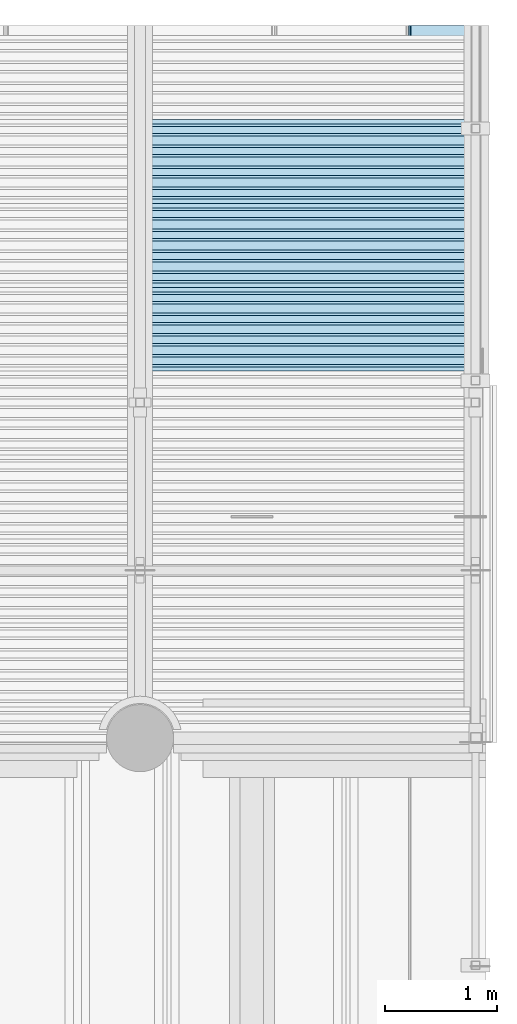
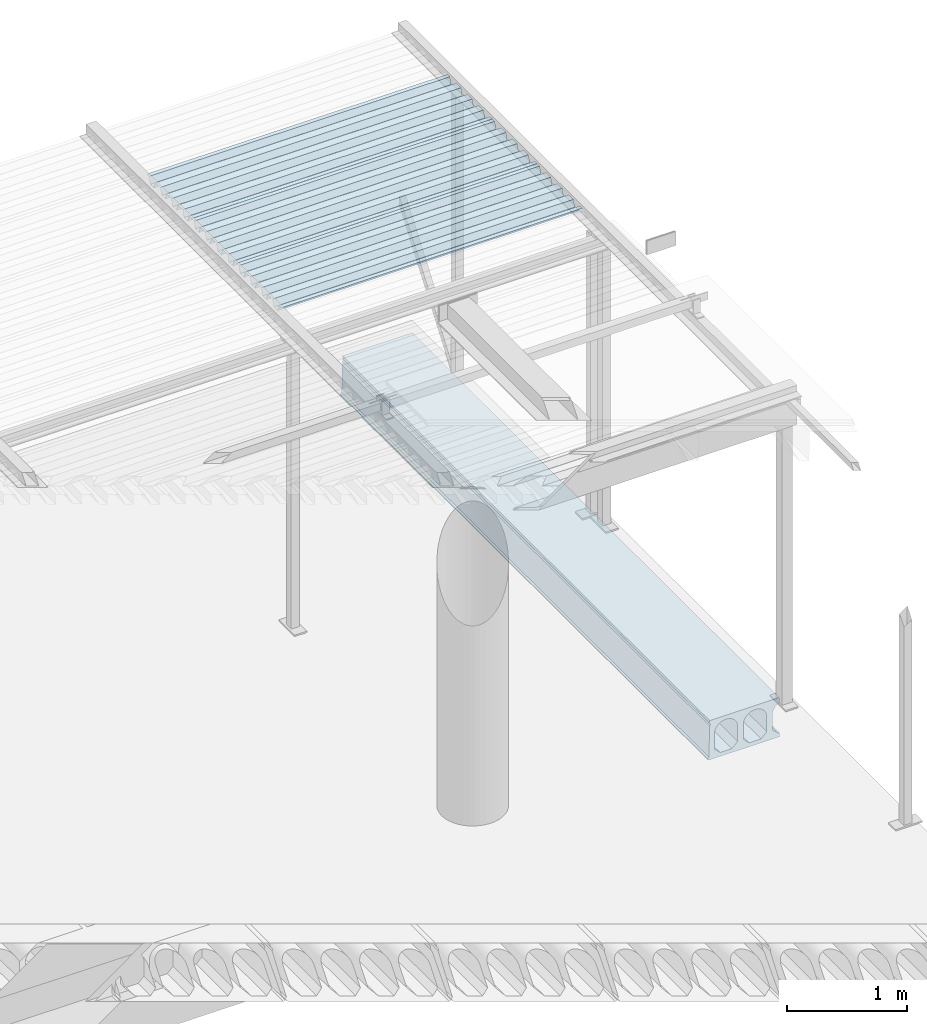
# One storey, part 97 of 98: 4 slabs.
"""IFC2X3 building model written with IfcOpenShell, lengths in millimetres."""

from ifc_helpers import new_model, entity, si_unit, converted_unit, derived_unit, direction, frame, origin_with_axes, place, context, subcontext, project, spatial, faceted_brep, material, type_object, element, save


model = new_model("IFC2X3")

# Units and contexts
model_context = context("Model", 3, precision=0.01, world=frame((0.0, 4.29681676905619e-09, 0.0)), true_north=direction((4.01073788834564e-13, 1.0)))
plan_context = context("Plan", 3, precision=0.01, world=frame((0.0, 4.29681676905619e-09, 0.0)), true_north=direction((4.01073788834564e-13, 1.0)))
body_context = subcontext(model_context, "Body", "Model", "MODEL_VIEW")
ifc_project = project(units=[converted_unit("PLANEANGLEUNIT", "DEGREE", entity("IfcPositiveLengthMeasure", 0.0174532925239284), si_unit("PLANEANGLEUNIT", "RADIAN"), dimensions=[0, 0, 0, 0, 0, 0, 0]), si_unit("AREAUNIT", "SQUARE_METRE"), si_unit("LENGTHUNIT", "METRE", prefix="MILLI"), si_unit("MASSUNIT", "GRAM", prefix="KILO"), si_unit("POWERUNIT", "WATT"), si_unit("PRESSUREUNIT", "PASCAL"), si_unit("FORCEUNIT", "NEWTON", prefix="KILO"), si_unit("ELECTRICCURRENTUNIT", "AMPERE"), si_unit("THERMODYNAMICTEMPERATUREUNIT", "DEGREE_CELSIUS"), si_unit("TIMEUNIT", "SECOND"), si_unit("VOLUMEUNIT", "CUBIC_METRE"), derived_unit("LINEARVELOCITYUNIT", [(si_unit("LENGTHUNIT", "METRE"), 1), (si_unit("TIMEUNIT", "SECOND"), -1)]), derived_unit("VOLUMETRICFLOWRATEUNIT", [(si_unit("VOLUMEUNIT", "CUBIC_METRE"), 1), (si_unit("TIMEUNIT", "SECOND"), -1)]), derived_unit("THERMALTRANSMITTANCEUNIT", [(si_unit("POWERUNIT", "WATT"), 1), (si_unit("THERMODYNAMICTEMPERATUREUNIT", "KELVIN"), -1), (si_unit("AREAUNIT", "SQUARE_METRE"), -1)])], contexts=[model_context, plan_context])

# Site, building, storey
site_placement = place(None, frame((0.0, -4.29681676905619e-09, 0.0), z_axis=(0.0, 0.0, 1.0), x_axis=(1.0, 0.0, 0.0)))
site = spatial("IfcSite", under=ifc_project, at=site_placement, Name="Gardermoen", CompositionType="ELEMENT")
building_placement = place(site_placement, frame((0.0, 4.29681676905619e-09, 0.0), z_axis=(0.0, 0.0, 1.0), x_axis=(1.0, 0.0, 0.0)))
building = spatial("IfcBuilding", under=site, at=building_placement, Name="TS", CompositionType="ELEMENT")
storey_placement = place(building_placement, origin_with_axes())
storey = spatial("IfcBuildingStorey", under=building, at=storey_placement, Name="D", CompositionType="ELEMENT", Elevation=0.0)

# Slabs
slab_type_1 = type_object("IfcSlabType", Name="HD400", PredefinedType="NOTDEFINED")
slab_1_placement = place(storey_placement, frame((531999.999766, 414739.995625, 203600.0), z_axis=(0.0, 0.0, 1.0), x_axis=(0.0, 1.0, 0.0)))
element("IfcSlab", 1, at=slab_1_placement, inside=storey, type_object=slab_type_1, Name="HULLDEKKE", ObjectType="HD400", PredefinedType="FLOOR", context=body_context, shape_type="Brep", body=[
    faceted_brep([(6130.19582840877, 600.0, -190.0), (6130.19582840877, 600.0, -180.0), (0.0, 600.0, -180.0), (0.0, 600.0, -190.0), (6130.19582840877, 585.0, -170.0), (0.0, 585.0, -170.0), (6130.19582840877, 577.5, 145.0), (0.0, 577.5, 145.0), (6130.19582840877, 570.0, 160.0), (0.0, 570.0, 160.0), (6130.19582840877, 577.5, 175.0), (0.0, 577.5, 175.0), (6130.19582840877, 577.5, 200.0), (0.0, 577.5, 200.0), (6130.19582840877, -95.0002340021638, 200.0), (0.0, -95.0002340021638, 200.0), (0.0, -95.0002340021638, -200.0), (6130.19582840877, -95.0002340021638, -200.0), (6130.19582840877, 583.380004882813, -200.0), (0.0, 583.380004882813, -200.0), (6130.19582840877, -82.5, -160.0), (6130.19582840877, -95.0002340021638, -160.0), (0.0, -95.0002340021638, -160.0), (0.0, -82.5, -160.0), (0.0, -95.0002340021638, 150.599015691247), (6130.19582840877, -95.0002340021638, 150.599015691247), (6130.19582840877, -94.8092647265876, 150.524499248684), (0.0, -94.8092647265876, 150.524499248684), (6130.19582840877, -86.4559182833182, 146.440797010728), (0.0, -86.4559182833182, 146.440797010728), (6130.19582840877, -78.4683322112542, 141.681228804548), (0.0, -78.4683322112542, 141.681228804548), (6130.19582840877, -70.9010698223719, 136.278307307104), (0.0, -70.9010698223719, 136.278307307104), (6130.19582840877, -63.8058231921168, 130.268939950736), (0.0, -63.8058231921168, 130.268939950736), (6130.19582840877, -57.2310600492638, 123.694176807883), (0.0, -57.2310600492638, 123.694176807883), (6130.19582840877, -51.2216926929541, 116.598930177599), (0.0, -51.2216926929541, 116.598930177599), (6130.19582840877, -45.8187711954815, 109.031667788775), (0.0, -45.8187711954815, 109.031667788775), (6130.19582840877, -41.0592029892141, 101.044081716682), (0.0, -41.0592029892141, 101.044081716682), (6130.19582840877, -36.9755007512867, 92.6907352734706), (0.0, -36.9755007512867, 92.6907352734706), (6130.19582840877, -33.5955603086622, 84.028690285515), (0.0, -33.5955603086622, 84.028690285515), (6130.19582840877, -30.942470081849, 75.1171173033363), (0.0, -30.942470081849, 75.1171173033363), (6130.19582840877, -29.0343533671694, 66.0168914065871), (0.0, -29.0343533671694, 66.0168914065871), (6130.19582840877, -27.8842445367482, 56.7901763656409), (0.0, -27.8842445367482, 56.7901763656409), (6130.19582840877, -27.5, 47.5), (0.0, -27.5, 47.5), (6130.19582840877, -27.5, -105.0), (0.0, -27.5, -105.0), (6130.19582840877, 197.499999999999, -160.0), (6130.19582840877, 82.4999999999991, -160.0), (0.0, 82.5, -160.0), (0.0, 197.5, -160.0), (6130.19582840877, 27.5, -105.0), (0.0, 27.5, -105.0), (6130.19582840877, 27.5000000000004, 47.5000000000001), (0.0, 27.5, 47.5), (6130.19582840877, 27.8842445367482, 56.7901763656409), (0.0, 27.8842445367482, 56.7901763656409), (6130.19582840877, 29.0343533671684, 66.0168914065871), (0.0, 29.0343533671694, 66.0168914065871), (6130.19582840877, 30.942470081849, 75.1171173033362), (0.0, 30.942470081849, 75.1171173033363), (6130.19582840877, 33.5955603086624, 84.0286902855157), (0.0, 33.5955603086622, 84.028690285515), (6130.19582840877, 36.9755007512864, 92.69073527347), (0.0, 36.9755007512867, 92.6907352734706), (6130.19582840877, 41.0592029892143, 101.044081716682), (0.0, 41.0592029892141, 101.044081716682), (6130.19582840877, 45.8187711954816, 109.031667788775), (0.0, 45.8187711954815, 109.031667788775), (6130.19582840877, 51.2216926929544, 116.598930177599), (0.0, 51.2216926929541, 116.598930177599), (6130.19582840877, 57.2310600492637, 123.694176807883), (0.0, 57.2310600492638, 123.694176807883), (6130.19582840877, 63.8058231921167, 130.268939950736), (0.0, 63.8058231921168, 130.268939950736), (6130.19582840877, 70.9010698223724, 136.278307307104), (0.0, 70.9010698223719, 136.278307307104), (6130.19582840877, 78.4683322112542, 141.681228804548), (0.0, 78.4683322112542, 141.681228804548), (6130.19582840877, 86.4559182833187, 146.440797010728), (0.0, 86.4559182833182, 146.440797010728), (6130.19582840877, 94.8092647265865, 150.524499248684), (0.0, 94.8092647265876, 150.524499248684), (6130.19582840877, 103.471309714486, 153.904439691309), (0.0, 103.471309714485, 153.904439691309), (6130.19582840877, 112.382882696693, 156.55752991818), (0.0, 112.382882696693, 156.55752991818), (6130.19582840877, 121.483108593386, 158.465646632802), (0.0, 121.483108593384, 158.465646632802), (6130.19582840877, 130.70982363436, 159.615755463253), (0.0, 130.709823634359, 159.615755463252), (6130.19582840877, 140.0, 160.0), (0.0, 140.0, 160.0), (6130.19582840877, 149.290176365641, 159.615755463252), (0.0, 149.290176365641, 159.615755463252), (6130.19582840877, 158.516891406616, 158.465646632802), (0.0, 158.516891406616, 158.465646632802), (6130.19582840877, 167.617117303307, 156.55752991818), (0.0, 167.617117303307, 156.55752991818), (6130.19582840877, 176.528690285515, 153.904439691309), (0.0, 176.528690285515, 153.904439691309), (6130.19582840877, 185.190735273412, 150.524499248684), (0.0, 185.190735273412, 150.524499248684), (6130.19582840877, 193.544081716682, 146.440797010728), (0.0, 193.544081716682, 146.440797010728), (6130.19582840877, 201.531667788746, 141.681228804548), (0.0, 201.531667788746, 141.681228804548), (6130.19582840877, 209.098930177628, 136.278307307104), (0.0, 209.098930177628, 136.278307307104), (6130.19582840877, 216.194176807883, 130.268939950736), (0.0, 216.194176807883, 130.268939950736), (6130.19582840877, 222.768939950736, 123.694176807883), (0.0, 222.768939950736, 123.694176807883), (6130.19582840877, 228.778307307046, 116.598930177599), (0.0, 228.778307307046, 116.598930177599), (6130.19582840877, 234.181228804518, 109.031667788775), (0.0, 234.181228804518, 109.031667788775), (6130.19582840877, 238.940797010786, 101.044081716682), (0.0, 238.940797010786, 101.044081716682), (6130.19582840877, 243.024499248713, 92.6907352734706), (0.0, 243.024499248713, 92.6907352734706), (6130.19582840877, 246.404439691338, 84.0286902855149), (0.0, 246.404439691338, 84.028690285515), (6130.19582840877, 249.05752991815, 75.1171173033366), (0.0, 249.057529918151, 75.1171173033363), (6130.19582840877, 250.96564663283, 66.0168914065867), (0.0, 250.965646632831, 66.0168914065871), (6130.19582840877, 252.115755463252, 56.7901763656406), (0.0, 252.115755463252, 56.7901763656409), (6130.19582840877, 252.5, 47.5000000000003), (0.0, 252.5, 47.5), (6130.19582840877, 252.5, -105.0), (0.0, 252.5, -105.0), (6130.19582840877, 477.5, -160.0), (6130.19582840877, 362.5, -160.0), (0.0, 362.5, -160.0), (0.0, 477.5, -160.0), (6130.19582840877, 307.5, -105.0), (0.0, 307.5, -105.0), (6130.19582840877, 307.500000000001, 47.5000000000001), (0.0, 307.5, 47.5), (6130.19582840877, 307.884244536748, 56.7901763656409), (0.0, 307.884244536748, 56.7901763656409), (6130.19582840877, 309.034353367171, 66.0168914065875), (0.0, 309.034353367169, 66.0168914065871), (6130.19582840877, 310.942470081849, 75.1171173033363), (0.0, 310.942470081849, 75.1171173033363), (6130.19582840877, 313.595560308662, 84.028690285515), (0.0, 313.595560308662, 84.028690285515), (6130.19582840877, 316.975500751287, 92.6907352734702), (0.0, 316.975500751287, 92.6907352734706), (6130.19582840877, 321.059202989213, 101.044081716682), (0.0, 321.059202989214, 101.044081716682), (6130.19582840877, 325.818771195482, 109.031667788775), (0.0, 325.818771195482, 109.031667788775), (6130.19582840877, 331.221692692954, 116.598930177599), (0.0, 331.221692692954, 116.598930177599), (6130.19582840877, 337.231060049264, 123.694176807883), (0.0, 337.231060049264, 123.694176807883), (6130.19582840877, 343.805823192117, 130.268939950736), (0.0, 343.805823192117, 130.268939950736), (6130.19582840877, 350.901069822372, 136.278307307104), (0.0, 350.901069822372, 136.278307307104), (6130.19582840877, 358.468332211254, 141.681228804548), (0.0, 358.468332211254, 141.681228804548), (6130.19582840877, 366.455918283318, 146.440797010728), (0.0, 366.455918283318, 146.440797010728), (6130.19582840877, 374.809264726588, 150.524499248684), (0.0, 374.809264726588, 150.524499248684), (6130.19582840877, 383.471309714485, 153.904439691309), (0.0, 383.471309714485, 153.904439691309), (6130.19582840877, 392.382882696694, 156.55752991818), (0.0, 392.382882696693, 156.55752991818), (6130.19582840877, 401.483108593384, 158.465646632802), (0.0, 401.483108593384, 158.465646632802), (6130.19582840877, 410.70982363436, 159.615755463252), (0.0, 410.709823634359, 159.615755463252), (6130.19582840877, 420.0, 160.0), (0.0, 420.0, 160.0), (6130.19582840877, 429.290176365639, 159.615755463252), (0.0, 429.290176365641, 159.615755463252), (6130.19582840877, 438.516891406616, 158.465646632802), (0.0, 438.516891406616, 158.465646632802), (6130.19582840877, 447.617117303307, 156.55752991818), (0.0, 447.617117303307, 156.55752991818), (6130.19582840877, 456.528690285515, 153.904439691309), (0.0, 456.528690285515, 153.904439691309), (6130.19582840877, 465.190735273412, 150.524499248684), (0.0, 465.190735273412, 150.524499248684), (6130.19582840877, 473.544081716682, 146.440797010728), (0.0, 473.544081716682, 146.440797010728), (6130.19582840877, 481.531667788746, 141.681228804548), (0.0, 481.531667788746, 141.681228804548), (6130.19582840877, 489.098930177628, 136.278307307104), (0.0, 489.098930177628, 136.278307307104), (6130.19582840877, 496.194176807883, 130.268939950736), (0.0, 496.194176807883, 130.268939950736), (6130.19582840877, 502.768939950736, 123.694176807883), (0.0, 502.768939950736, 123.694176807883), (6130.19582840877, 508.778307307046, 116.598930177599), (0.0, 508.778307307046, 116.598930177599), (6130.19582840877, 514.181228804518, 109.031667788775), (0.0, 514.181228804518, 109.031667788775), (6130.19582840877, 518.940797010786, 101.044081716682), (0.0, 518.940797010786, 101.044081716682), (6130.19582840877, 523.024499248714, 92.6907352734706), (0.0, 523.024499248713, 92.6907352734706), (6130.19582840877, 526.404439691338, 84.028690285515), (0.0, 526.404439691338, 84.028690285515), (6130.19582840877, 529.057529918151, 75.1171173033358), (0.0, 529.057529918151, 75.1171173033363), (6130.19582840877, 530.965646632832, 66.0168914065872), (0.0, 530.965646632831, 66.0168914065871), (6130.19582840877, 532.115755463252, 56.7901763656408), (0.0, 532.115755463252, 56.7901763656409), (6130.19582840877, 532.500000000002, 47.5000000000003), (0.0, 532.5, 47.5), (6130.19582840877, 532.500000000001, -105.0), (0.0, 532.5, -105.0)], [[[0, 1, 2, 3]], [[1, 4, 5, 2]], [[4, 6, 7, 5]], [[6, 8, 9, 7]], [[8, 10, 11, 9]], [[10, 12, 13, 11]], [[12, 14, 15, 13]], [[16, 17, 18, 19]], [[18, 0, 3, 19]], [[20, 21, 22, 23]], [[24, 25, 26, 27]], [[26, 28, 29, 27]], [[28, 30, 31, 29]], [[30, 32, 33, 31]], [[32, 34, 35, 33]], [[34, 36, 37, 35]], [[36, 38, 39, 37]], [[38, 40, 41, 39]], [[40, 42, 43, 41]], [[42, 44, 45, 43]], [[44, 46, 47, 45]], [[46, 48, 49, 47]], [[48, 50, 51, 49]], [[50, 52, 53, 51]], [[52, 54, 55, 53]], [[54, 56, 57, 55]], [[56, 20, 23, 57]], [[58, 59, 60, 61]], [[59, 62, 63, 60]], [[62, 64, 65, 63]], [[64, 66, 67, 65]], [[66, 68, 69, 67]], [[68, 70, 71, 69]], [[70, 72, 73, 71]], [[72, 74, 75, 73]], [[74, 76, 77, 75]], [[76, 78, 79, 77]], [[78, 80, 81, 79]], [[80, 82, 83, 81]], [[82, 84, 85, 83]], [[84, 86, 87, 85]], [[86, 88, 89, 87]], [[88, 90, 91, 89]], [[90, 92, 93, 91]], [[92, 94, 95, 93]], [[94, 96, 97, 95]], [[96, 98, 99, 97]], [[98, 100, 101, 99]], [[100, 102, 103, 101]], [[102, 104, 105, 103]], [[104, 106, 107, 105]], [[106, 108, 109, 107]], [[108, 110, 111, 109]], [[110, 112, 113, 111]], [[112, 114, 115, 113]], [[114, 116, 117, 115]], [[116, 118, 119, 117]], [[118, 120, 121, 119]], [[120, 122, 123, 121]], [[122, 124, 125, 123]], [[124, 126, 127, 125]], [[126, 128, 129, 127]], [[128, 130, 131, 129]], [[130, 132, 133, 131]], [[132, 134, 135, 133]], [[134, 136, 137, 135]], [[136, 138, 139, 137]], [[138, 140, 141, 139]], [[140, 142, 143, 141]], [[142, 58, 61, 143]], [[144, 145, 146, 147]], [[145, 148, 149, 146]], [[148, 150, 151, 149]], [[150, 152, 153, 151]], [[152, 154, 155, 153]], [[154, 156, 157, 155]], [[156, 158, 159, 157]], [[158, 160, 161, 159]], [[160, 162, 163, 161]], [[162, 164, 165, 163]], [[164, 166, 167, 165]], [[166, 168, 169, 167]], [[168, 170, 171, 169]], [[170, 172, 173, 171]], [[172, 174, 175, 173]], [[174, 176, 177, 175]], [[176, 178, 179, 177]], [[178, 180, 181, 179]], [[180, 182, 183, 181]], [[182, 184, 185, 183]], [[184, 186, 187, 185]], [[186, 188, 189, 187]], [[188, 190, 191, 189]], [[190, 192, 193, 191]], [[192, 194, 195, 193]], [[194, 196, 197, 195]], [[196, 198, 199, 197]], [[198, 200, 201, 199]], [[200, 202, 203, 201]], [[202, 204, 205, 203]], [[204, 206, 207, 205]], [[206, 208, 209, 207]], [[208, 210, 211, 209]], [[210, 212, 213, 211]], [[212, 214, 215, 213]], [[214, 216, 217, 215]], [[216, 218, 219, 217]], [[218, 220, 221, 219]], [[220, 222, 223, 221]], [[222, 224, 225, 223]], [[224, 226, 227, 225]], [[226, 228, 229, 227]], [[228, 144, 147, 229]], [[15, 24, 27, 29, 31, 33, 35, 37, 39, 41, 43, 45, 47, 49, 51, 53, 55, 57, 23, 22, 16, 19, 3, 2, 5, 7, 9, 11, 13], [147, 146, 149, 151, 153, 155, 157, 159, 161, 163, 165, 167, 169, 171, 173, 175, 177, 179, 181, 183, 185, 187, 189, 191, 193, 195, 197, 199, 201, 203, 205, 207, 209, 211, 213, 215, 217, 219, 221, 223, 225, 227, 229], [61, 60, 63, 65, 67, 69, 71, 73, 75, 77, 79, 81, 83, 85, 87, 89, 91, 93, 95, 97, 99, 101, 103, 105, 107, 109, 111, 113, 115, 117, 119, 121, 123, 125, 127, 129, 131, 133, 135, 137, 139, 141, 143]], [[25, 24, 15, 14]], [[17, 16, 22, 21]], [[14, 12, 10, 8, 6, 4, 1, 0, 18, 17, 21, 20, 56, 54, 52, 50, 48, 46, 44, 42, 40, 38, 36, 34, 32, 30, 28, 26, 25]]], orient=[[False], [False], [False], [False], [False], [False], [False], [False], [False], [False], [False], [False], [False], [False], [False], [False], [False], [False], [False], [False], [False], [False], [False], [False], [False], [False], [False], [False], [False], [False], [False], [False], [False], [False], [False], [False], [False], [False], [False], [False], [False], [False], [False], [False], [False], [False], [False], [False], [False], [False], [False], [False], [False], [False], [False], [False], [False], [False], [False], [False], [False], [False], [False], [False], [False], [False], [False], [False], [False], [False], [False], [False], [False], [False], [False], [False], [False], [False], [False], [False], [False], [False], [False], [False], [False], [False], [False], [False], [False], [False], [False], [False], [False], [False], [False], [False], [False], [False], [False], [False], [False], [False], [False], [False], [False], [False], [False], [False], [False], [False], [False], [False], [False], [False, False, False], [False], [False], [False]]),
])
ifc_material = material(Name="STEEL/S355")
slab_type_2 = type_object("IfcSlabType", Name="PLANJA70", PredefinedType="NOTDEFINED")
slab_2_placement = place(storey_placement, frame((531950.000000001, 418154.996695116, 206958.849718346), z_axis=(0.0, 0.0, 1.0), x_axis=(-0.999999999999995, -9.99999902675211e-08, 0.0)))
element("IfcSlab", 2, at=slab_2_placement, inside=storey, type_object=slab_type_2, material=ifc_material, Name="STÅLTAK", ObjectType="PLANJA70", PredefinedType="FLOOR", context=body_context, shape_type="Brep", body=[
    faceted_brep([(0.0, 375.0, 34.1500015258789), (0.0, 335.299987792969, 34.1500015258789), (2900.00079747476, 335.299987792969, 34.1500015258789), (2900.00079747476, 375.0, 34.1500015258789), (0.0, 313.010681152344, -32.1500015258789), (2900.00079747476, 313.010681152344, -32.1500015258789), (0.0, 249.489303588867, -32.1500015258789), (2900.00079747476, 249.489303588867, -32.1500015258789), (0.0, 227.199996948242, 34.1500015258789), (2900.00079747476, 227.199996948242, 34.1500015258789), (0.0, 147.800003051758, 34.1500015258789), (2900.00079747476, 147.800003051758, 34.1500015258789), (0.0, 125.280120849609, -33.1500015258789), (2900.00079747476, 125.280120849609, -33.1500015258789), (0.0, 62.2198791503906, -33.1500015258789), (2900.00079747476, 62.2198791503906, -33.1500015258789), (0.0, 39.7000007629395, 34.1500015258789), (2900.00079747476, 39.7000007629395, 34.1500015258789), (0.0, -39.7000007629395, 34.1500015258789), (2900.00079747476, -39.7000007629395, 34.1500015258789), (0.0, -62.2198791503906, -33.1500015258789), (2900.00079747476, -62.2198791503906, -33.1500015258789), (0.0, -125.280120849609, -33.1500015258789), (2900.00079747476, -125.280120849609, -33.1500015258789), (0.0, -147.800003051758, 34.1500015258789), (2900.00079747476, -147.800003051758, 34.1500015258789), (0.0, -227.199996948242, 34.1500015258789), (2900.00079747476, -227.199996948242, 34.1500015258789), (0.0, -249.719879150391, -33.1500015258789), (2900.00079747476, -249.719879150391, -33.1500015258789), (0.0, -312.781188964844, -33.1500015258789), (2900.00079747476, -312.781188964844, -33.1500015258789), (0.0, -335.070495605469, 33.1500015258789), (2900.00079747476, -335.070495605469, 33.1500015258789), (0.0, -375.0, 33.1500015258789), (2900.00079747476, -375.0, 33.1500015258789), (0.0, -375.0, 32.1500015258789), (2900.00079747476, -375.0, 32.1500015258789), (0.0, -335.789306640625, 32.1500015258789), (2900.00079747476, -335.789306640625, 32.1500015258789), (0.0, -313.5, -34.1500015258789), (2900.00079747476, -313.5, -34.1500015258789), (0.0, -249.0, -34.1500015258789), (2900.00079747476, -249.0, -34.1500015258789), (0.0, -226.480117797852, 33.1500015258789), (2900.00079747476, -226.480117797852, 33.1500015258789), (0.0, -148.519882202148, 33.1500015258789), (2900.00079747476, -148.519882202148, 33.1500015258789), (0.0, -126.0, -34.1500015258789), (2900.00079747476, -126.0, -34.1500015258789), (0.0, -61.5, -34.1500015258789), (2900.00079747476, -61.5, -34.1500015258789), (0.0, -38.9801177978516, 33.1500015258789), (2900.00079747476, -38.9801177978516, 33.1500015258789), (0.0, 38.9801177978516, 33.1500015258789), (2900.00079747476, 38.9801177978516, 33.1500015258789), (0.0, 61.5, -34.1500015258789), (2900.00079747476, 61.5, -34.1500015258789), (0.0, 126.0, -34.1500015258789), (2900.00079747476, 126.0, -34.1500015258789), (0.0, 148.519882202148, 33.1500015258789), (2900.00079747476, 148.519882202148, 33.1500015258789), (0.0, 226.481185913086, 33.1500015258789), (2900.00079747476, 226.481185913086, 33.1500015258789), (0.0, 248.770492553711, -33.1500015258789), (2900.00079747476, 248.770492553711, -33.1500015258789), (0.0, 313.7294921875, -33.1500015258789), (2900.00079747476, 313.7294921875, -33.1500015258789), (0.0, 336.018798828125, 33.1500015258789), (2900.00079747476, 336.018798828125, 33.1500015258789), (0.0, 375.0, 33.1500015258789), (2900.00079747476, 375.0, 33.1500015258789)], [[[0, 1, 2, 3]], [[1, 4, 5, 2]], [[4, 6, 7, 5]], [[6, 8, 9, 7]], [[8, 10, 11, 9]], [[10, 12, 13, 11]], [[12, 14, 15, 13]], [[14, 16, 17, 15]], [[16, 18, 19, 17]], [[18, 20, 21, 19]], [[22, 23, 21, 20]], [[22, 24, 25, 23]], [[24, 26, 27, 25]], [[26, 28, 29, 27]], [[28, 30, 31, 29]], [[30, 32, 33, 31]], [[32, 34, 35, 33]], [[34, 36, 37, 35]], [[36, 38, 39, 37]], [[38, 40, 41, 39]], [[40, 42, 43, 41]], [[42, 44, 45, 43]], [[44, 46, 47, 45]], [[46, 48, 49, 47]], [[48, 50, 51, 49]], [[50, 52, 53, 51]], [[52, 54, 55, 53]], [[54, 56, 57, 55]], [[56, 58, 59, 57]], [[58, 60, 61, 59]], [[60, 62, 63, 61]], [[62, 64, 65, 63]], [[64, 66, 67, 65]], [[66, 68, 69, 67]], [[68, 70, 71, 69]], [[70, 0, 3, 71]], [[5, 7, 9, 11, 13, 15, 17, 19, 21, 23, 25, 27, 29, 31, 33, 35, 37, 39, 41, 43, 45, 47, 49, 51, 53, 55, 57, 59, 61, 63, 65, 67, 69, 71, 3, 2]], [[70, 68, 66, 64, 62, 60, 58, 56, 54, 52, 50, 48, 46, 44, 42, 40, 38, 36, 34, 32, 30, 28, 26, 24, 22, 20, 18, 16, 14, 12, 10, 8, 6, 4, 1, 0]]]),
])
slab_3_placement = place(storey_placement, frame((531950.000000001, 418904.996695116, 206958.849718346), z_axis=(0.0, 0.0, 1.0), x_axis=(-0.999999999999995, -9.99999902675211e-08, 0.0)))
element("IfcSlab", 3, at=slab_3_placement, inside=storey, type_object=slab_type_2, material=ifc_material, Name="STÅLTAK", ObjectType="PLANJA70", PredefinedType="FLOOR", context=body_context, shape_type="Brep", body=[
    faceted_brep([(0.0, 375.0, 34.1500015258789), (0.0, 335.299987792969, 34.1500015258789), (2900.00079747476, 335.299987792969, 34.1500015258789), (2900.00079747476, 375.0, 34.1500015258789), (0.0, 313.010681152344, -32.1500015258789), (2900.00079747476, 313.010681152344, -32.1500015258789), (0.0, 249.489303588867, -32.1500015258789), (2900.00079747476, 249.489303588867, -32.1500015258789), (0.0, 227.199996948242, 34.1500015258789), (2900.00079747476, 227.199996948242, 34.1500015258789), (0.0, 147.800003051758, 34.1500015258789), (2900.00079747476, 147.800003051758, 34.1500015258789), (0.0, 125.280120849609, -33.1500015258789), (2900.00079747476, 125.280120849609, -33.1500015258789), (0.0, 62.2198791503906, -33.1500015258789), (2900.00079747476, 62.2198791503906, -33.1500015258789), (0.0, 39.7000007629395, 34.1500015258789), (2900.00079747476, 39.7000007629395, 34.1500015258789), (0.0, -39.7000007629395, 34.1500015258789), (2900.00079747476, -39.7000007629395, 34.1500015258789), (0.0, -62.2198791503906, -33.1500015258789), (2900.00079747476, -62.2198791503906, -33.1500015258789), (0.0, -125.280120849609, -33.1500015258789), (2900.00079747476, -125.280120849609, -33.1500015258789), (0.0, -147.800003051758, 34.1500015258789), (2900.00079747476, -147.800003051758, 34.1500015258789), (0.0, -227.199996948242, 34.1500015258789), (2900.00079747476, -227.199996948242, 34.1500015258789), (0.0, -249.719879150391, -33.1500015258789), (2900.00079747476, -249.719879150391, -33.1500015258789), (0.0, -312.781188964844, -33.1500015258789), (2900.00079747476, -312.781188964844, -33.1500015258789), (0.0, -335.070495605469, 33.1500015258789), (2900.00079747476, -335.070495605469, 33.1500015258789), (0.0, -375.0, 33.1500015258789), (2900.00079747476, -375.0, 33.1500015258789), (0.0, -375.0, 32.1500015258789), (2900.00079747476, -375.0, 32.1500015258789), (0.0, -335.789306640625, 32.1500015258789), (2900.00079747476, -335.789306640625, 32.1500015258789), (0.0, -313.5, -34.1500015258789), (2900.00079747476, -313.5, -34.1500015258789), (0.0, -249.0, -34.1500015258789), (2900.00079747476, -249.0, -34.1500015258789), (0.0, -226.480117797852, 33.1500015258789), (2900.00079747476, -226.480117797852, 33.1500015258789), (0.0, -148.519882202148, 33.1500015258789), (2900.00079747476, -148.519882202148, 33.1500015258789), (0.0, -126.0, -34.1500015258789), (2900.00079747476, -126.0, -34.1500015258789), (0.0, -61.5, -34.1500015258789), (2900.00079747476, -61.5, -34.1500015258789), (0.0, -38.9801177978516, 33.1500015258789), (2900.00079747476, -38.9801177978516, 33.1500015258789), (0.0, 38.9801177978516, 33.1500015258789), (2900.00079747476, 38.9801177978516, 33.1500015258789), (0.0, 61.5, -34.1500015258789), (2900.00079747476, 61.5, -34.1500015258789), (0.0, 126.0, -34.1500015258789), (2900.00079747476, 126.0, -34.1500015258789), (0.0, 148.519882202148, 33.1500015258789), (2900.00079747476, 148.519882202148, 33.1500015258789), (0.0, 226.481185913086, 33.1500015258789), (2900.00079747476, 226.481185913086, 33.1500015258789), (0.0, 248.770492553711, -33.1500015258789), (2900.00079747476, 248.770492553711, -33.1500015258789), (0.0, 313.7294921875, -33.1500015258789), (2900.00079747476, 313.7294921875, -33.1500015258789), (0.0, 336.018798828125, 33.1500015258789), (2900.00079747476, 336.018798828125, 33.1500015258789), (0.0, 375.0, 33.1500015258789), (2900.00079747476, 375.0, 33.1500015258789)], [[[0, 1, 2, 3]], [[1, 4, 5, 2]], [[4, 6, 7, 5]], [[6, 8, 9, 7]], [[8, 10, 11, 9]], [[10, 12, 13, 11]], [[12, 14, 15, 13]], [[14, 16, 17, 15]], [[16, 18, 19, 17]], [[18, 20, 21, 19]], [[22, 23, 21, 20]], [[22, 24, 25, 23]], [[24, 26, 27, 25]], [[26, 28, 29, 27]], [[28, 30, 31, 29]], [[30, 32, 33, 31]], [[32, 34, 35, 33]], [[34, 36, 37, 35]], [[36, 38, 39, 37]], [[38, 40, 41, 39]], [[40, 42, 43, 41]], [[42, 44, 45, 43]], [[44, 46, 47, 45]], [[46, 48, 49, 47]], [[48, 50, 51, 49]], [[50, 52, 53, 51]], [[52, 54, 55, 53]], [[54, 56, 57, 55]], [[56, 58, 59, 57]], [[58, 60, 61, 59]], [[60, 62, 63, 61]], [[62, 64, 65, 63]], [[64, 66, 67, 65]], [[66, 68, 69, 67]], [[68, 70, 71, 69]], [[70, 0, 3, 71]], [[5, 7, 9, 11, 13, 15, 17, 19, 21, 23, 25, 27, 29, 31, 33, 35, 37, 39, 41, 43, 45, 47, 49, 51, 53, 55, 57, 59, 61, 63, 65, 67, 69, 71, 3, 2]], [[70, 68, 66, 64, 62, 60, 58, 56, 54, 52, 50, 48, 46, 44, 42, 40, 38, 36, 34, 32, 30, 28, 26, 24, 22, 20, 18, 16, 14, 12, 10, 8, 6, 4, 1, 0]]]),
])
slab_4_placement = place(storey_placement, frame((531950.000000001, 419654.996695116, 206958.849718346), z_axis=(0.0, 0.0, 1.0), x_axis=(-0.999999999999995, -9.99999902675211e-08, 0.0)))
element("IfcSlab", 4, at=slab_4_placement, inside=storey, type_object=slab_type_2, material=ifc_material, Name="STÅLTAK", ObjectType="PLANJA70", PredefinedType="FLOOR", context=body_context, shape_type="Brep", body=[
    faceted_brep([(0.0, 375.0, 34.1500015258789), (0.0, 335.299987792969, 34.1500015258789), (2900.00079747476, 335.299987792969, 34.1500015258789), (2900.00079747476, 375.0, 34.1500015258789), (0.0, 313.010681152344, -32.1500015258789), (2900.00079747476, 313.010681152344, -32.1500015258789), (0.0, 249.489303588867, -32.1500015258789), (2900.00079747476, 249.489303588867, -32.1500015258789), (0.0, 227.199996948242, 34.1500015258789), (2900.00079747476, 227.199996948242, 34.1500015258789), (0.0, 147.800003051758, 34.1500015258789), (2900.00079747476, 147.800003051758, 34.1500015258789), (0.0, 125.280120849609, -33.1500015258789), (2900.00079747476, 125.280120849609, -33.1500015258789), (0.0, 62.2198791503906, -33.1500015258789), (2900.00079747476, 62.2198791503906, -33.1500015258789), (0.0, 39.7000007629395, 34.1500015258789), (2900.00079747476, 39.7000007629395, 34.1500015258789), (0.0, -39.7000007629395, 34.1500015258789), (2900.00079747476, -39.7000007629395, 34.1500015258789), (0.0, -62.2198791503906, -33.1500015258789), (2900.00079747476, -62.2198791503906, -33.1500015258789), (0.0, -125.280120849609, -33.1500015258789), (2900.00079747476, -125.280120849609, -33.1500015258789), (0.0, -147.800003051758, 34.1500015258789), (2900.00079747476, -147.800003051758, 34.1500015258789), (0.0, -227.199996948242, 34.1500015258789), (2900.00079747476, -227.199996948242, 34.1500015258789), (0.0, -249.719879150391, -33.1500015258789), (2900.00079747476, -249.719879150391, -33.1500015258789), (0.0, -312.781188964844, -33.1500015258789), (2900.00079747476, -312.781188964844, -33.1500015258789), (0.0, -335.070495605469, 33.1500015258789), (2900.00079747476, -335.070495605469, 33.1500015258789), (0.0, -375.0, 33.1500015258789), (2900.00079747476, -375.0, 33.1500015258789), (0.0, -375.0, 32.1500015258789), (2900.00079747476, -375.0, 32.1500015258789), (0.0, -335.789306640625, 32.1500015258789), (2900.00079747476, -335.789306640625, 32.1500015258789), (0.0, -313.5, -34.1500015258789), (2900.00079747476, -313.5, -34.1500015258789), (0.0, -249.0, -34.1500015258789), (2900.00079747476, -249.0, -34.1500015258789), (0.0, -226.480117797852, 33.1500015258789), (2900.00079747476, -226.480117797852, 33.1500015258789), (0.0, -148.519882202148, 33.1500015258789), (2900.00079747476, -148.519882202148, 33.1500015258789), (0.0, -126.0, -34.1500015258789), (2900.00079747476, -126.0, -34.1500015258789), (0.0, -61.5, -34.1500015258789), (2900.00079747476, -61.5, -34.1500015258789), (0.0, -38.9801177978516, 33.1500015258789), (2900.00079747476, -38.9801177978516, 33.1500015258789), (0.0, 38.9801177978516, 33.1500015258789), (2900.00079747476, 38.9801177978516, 33.1500015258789), (0.0, 61.5, -34.1500015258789), (2900.00079747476, 61.5, -34.1500015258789), (0.0, 126.0, -34.1500015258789), (2900.00079747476, 126.0, -34.1500015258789), (0.0, 148.519882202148, 33.1500015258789), (2900.00079747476, 148.519882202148, 33.1500015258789), (0.0, 226.481185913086, 33.1500015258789), (2900.00079747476, 226.481185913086, 33.1500015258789), (0.0, 248.770492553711, -33.1500015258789), (2900.00079747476, 248.770492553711, -33.1500015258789), (0.0, 313.7294921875, -33.1500015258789), (2900.00079747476, 313.7294921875, -33.1500015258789), (0.0, 336.018798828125, 33.1500015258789), (2900.00079747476, 336.018798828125, 33.1500015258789), (0.0, 375.0, 33.1500015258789), (2900.00079747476, 375.0, 33.1500015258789)], [[[0, 1, 2, 3]], [[1, 4, 5, 2]], [[4, 6, 7, 5]], [[6, 8, 9, 7]], [[8, 10, 11, 9]], [[10, 12, 13, 11]], [[12, 14, 15, 13]], [[14, 16, 17, 15]], [[16, 18, 19, 17]], [[18, 20, 21, 19]], [[22, 23, 21, 20]], [[22, 24, 25, 23]], [[24, 26, 27, 25]], [[26, 28, 29, 27]], [[28, 30, 31, 29]], [[30, 32, 33, 31]], [[32, 34, 35, 33]], [[34, 36, 37, 35]], [[36, 38, 39, 37]], [[38, 40, 41, 39]], [[40, 42, 43, 41]], [[42, 44, 45, 43]], [[44, 46, 47, 45]], [[46, 48, 49, 47]], [[48, 50, 51, 49]], [[50, 52, 53, 51]], [[52, 54, 55, 53]], [[54, 56, 57, 55]], [[56, 58, 59, 57]], [[58, 60, 61, 59]], [[60, 62, 63, 61]], [[62, 64, 65, 63]], [[64, 66, 67, 65]], [[66, 68, 69, 67]], [[68, 70, 71, 69]], [[70, 0, 3, 71]], [[5, 7, 9, 11, 13, 15, 17, 19, 21, 23, 25, 27, 29, 31, 33, 35, 37, 39, 41, 43, 45, 47, 49, 51, 53, 55, 57, 59, 61, 63, 65, 67, 69, 71, 3, 2]], [[70, 68, 66, 64, 62, 60, 58, 56, 54, 52, 50, 48, 46, 44, 42, 40, 38, 36, 34, 32, 30, 28, 26, 24, 22, 20, 18, 16, 14, 12, 10, 8, 6, 4, 1, 0]]]),
])

save(model, "model.ifc")
